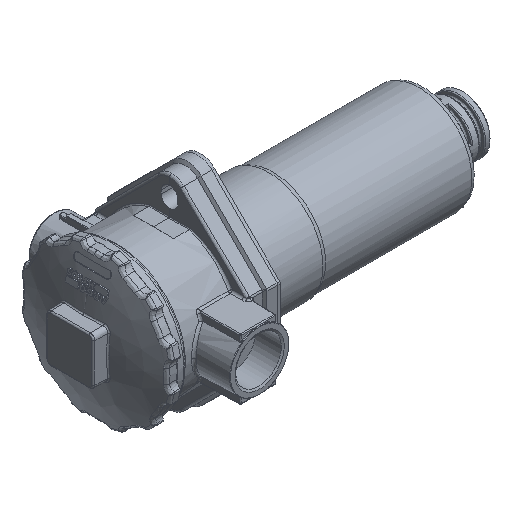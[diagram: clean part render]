
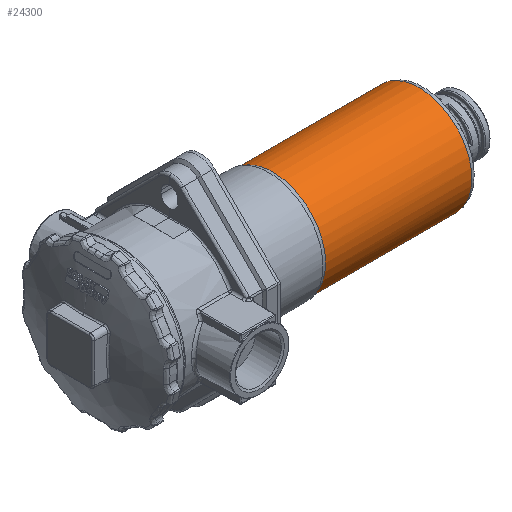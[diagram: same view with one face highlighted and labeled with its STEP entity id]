
A CAD part, isometric view. The second image highlights one B-rep face of the part: STEP entity #24300.
In plain terms, the highlighted free-form (B-spline) face has degree [2, 1] with [7, 2] control points.
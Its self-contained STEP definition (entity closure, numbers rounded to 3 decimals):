
#24190=CARTESIAN_POINT('V1533',(212.045,
   -35.5,0.));
#24191=VERTEX_POINT('V1533',#24190);
#24207=CARTESIAN_POINT('E2445',(212.045,
   -35.5,0.));
#24208=CARTESIAN_POINT('E2445',(212.045,
   -35.5,2.249));
#24209=CARTESIAN_POINT('E2445',(212.045,
   -35.071,6.75));
#24210=CARTESIAN_POINT('E2445',(212.045,
   -33.164,13.255));
#24211=CARTESIAN_POINT('E2445',(212.045,
   -30.061,19.284));
#24212=CARTESIAN_POINT('E2445',(212.045,
   -25.924,24.554));
#24213=CARTESIAN_POINT('E2445',(212.045,
   -20.944,28.91));
#24214=CARTESIAN_POINT('E2445',(212.045,
   -14.529,32.715));
#24215=CARTESIAN_POINT('E2445',(212.045,
   -6.519,35.309));
#24216=CARTESIAN_POINT('E2445',(212.045,
   1.904,35.747));
#24217=CARTESIAN_POINT('E2445',(212.045,
   9.283,34.474));
#24218=CARTESIAN_POINT('E2445',(212.045,
   15.454,32.184));
#24219=CARTESIAN_POINT('E2445',(212.045,
   21.1,28.8));
#24220=CARTESIAN_POINT('E2445',(212.045,
   26.084,24.388));
#24221=CARTESIAN_POINT('E2445',(212.045,
   30.203,19.064));
#24222=CARTESIAN_POINT('E2445',(212.045,
   33.27,12.99));
#24223=CARTESIAN_POINT('E2445',(212.045,
   35.13,6.444));
#24224=CARTESIAN_POINT('E2445',(212.045,
   35.72,-0.401));
#24225=CARTESIAN_POINT('E2445',(212.045,
   34.975,-7.299));
#24226=CARTESIAN_POINT('E2445',(212.045,
   32.879,-13.983));
#24227=CARTESIAN_POINT('E2445',(212.045,
   29.52,-20.128));
#24228=CARTESIAN_POINT('E2445',(212.045,
   24.92,-25.627));
#24229=CARTESIAN_POINT('E2445',(212.045,
   19.17,-30.191));
#24230=CARTESIAN_POINT('E2445',(212.045,
   12.694,-33.404));
#24231=CARTESIAN_POINT('E2445',(212.045,
   5.988,-35.202));
#24232=CARTESIAN_POINT('E2445',(212.045,
   -0.659,-35.701));
#24233=CARTESIAN_POINT('E2445',(212.045,
   -7.284,-34.957));
#24234=CARTESIAN_POINT('E2445',(212.045,
   -13.204,-33.132));
#24235=CARTESIAN_POINT('E2445',(212.045,
   -18.308,-30.565));
#24236=CARTESIAN_POINT('E2445',(212.045,
   -22.596,-27.547));
#24237=CARTESIAN_POINT('E2445',(212.045,
   -26.394,-23.932));
#24238=CARTESIAN_POINT('E2445',(212.045,
   -29.621,-19.799));
#24239=CARTESIAN_POINT('E2445',(212.045,
   -32.206,-15.237));
#24240=CARTESIAN_POINT('E2445',(212.045,
   -34.094,-10.345));
#24241=CARTESIAN_POINT('E2445',(212.045,
   -35.243,-5.229));
#24242=CARTESIAN_POINT('E2445',(212.045,
   -35.5,-1.743));
#24243=CARTESIAN_POINT('E2445',(212.045,
   -35.5,0.));
#24244=B_SPLINE_CURVE_WITH_KNOTS('E2445',3,(#24207,#24208,#24209,
   #24210,#24211,#24212,#24213,#24214,#24215,#24216,#24217,#24218,
   #24219,#24220,#24221,#24222,#24223,#24224,#24225,#24226,#24227,
   #24228,#24229,#24230,#24231,#24232,#24233,#24234,#24235,#24236,
   #24237,#24238,#24239,#24240,#24241,#24242,#24243),.UNSPECIFIED.,
   .T.,.U.,(4,1,1,1,1,1,1,1,1,1,1,1,1,1,1,1,1,1,1,1,1,1,1,1,1,1,1,1,
   1,1,1,1,1,1,4),(2.0,3.143,4.287,
   5.43,6.574,7.676,
   8.779,10.348,11.917,
   13.027,14.138,15.248,
   16.358,17.506,18.653,
   19.801,20.949,22.129,
   23.31,24.491,25.672,
   26.936,28.2,29.325,
   30.449,31.573,32.698,
   33.584,34.47,35.356,
   36.242,37.128,38.014,
   38.9,39.786),.UNSPECIFIED.);
#24245=EDGE_CURVE('E2445',#24191,#24191,#24244,.T.);
#24250=CARTESIAN_POINT('F938',(113.247,
   -35.5,0.));
#24251=CARTESIAN_POINT('F938',(113.247,
   -35.5,-61.488));
#24252=CARTESIAN_POINT('F938',(113.247,
   17.75,-30.744));
#24253=CARTESIAN_POINT('F938',(113.247,71.0,
   0.));
#24254=CARTESIAN_POINT('F938',(113.247,
   17.75,30.744));
#24255=CARTESIAN_POINT('F938',(113.247,
   -35.5,61.488));
#24256=CARTESIAN_POINT('F938',(113.247,
   -35.5,0.));
#24257=CARTESIAN_POINT('F938',(215.115,
   -35.5,0.));
#24258=CARTESIAN_POINT('F938',(215.115,
   -35.5,-61.488));
#24259=CARTESIAN_POINT('F938',(215.115,
   17.75,-30.744));
#24260=CARTESIAN_POINT('F938',(215.115,71.0,
   0.));
#24261=CARTESIAN_POINT('F938',(215.115,
   17.75,30.744));
#24262=CARTESIAN_POINT('F938',(215.115,
   -35.5,61.488));
#24263=CARTESIAN_POINT('F938',(215.115,
   -35.5,0.));
#24271=(BOUNDED_SURFACE()B_SPLINE_SURFACE(2,1,((#24250,#24257),(
   #24251,#24258),(#24252,#24259),(#24253,#24260),(#24254,
   #24261),(#24255,#24262),(#24256,#24263)),.CYLINDRICAL_SURF.,
   .T.,.F.,.U.)B_SPLINE_SURFACE_WITH_KNOTS((3,2,2,3),(2,2),(0.0,
   1.207,2.414,3.622),(0.0,1.0),
   .UNSPECIFIED.)GEOMETRIC_REPRESENTATION_ITEM()
   RATIONAL_B_SPLINE_SURFACE(((1.0,1.0),(0.5,
   0.5),(1.0,1.0),(0.5,
   0.5),(1.0,1.0),(0.5,
   0.5),(1.0,1.0)))REPRESENTATION_ITEM('F938')
   SURFACE());
#24272=ORIENTED_EDGE('F907',*,*,#24245,.T.);
#24273=CARTESIAN_POINT('V1560',(113.247,
   -35.5,0.));
#24274=VERTEX_POINT('V1560',#24273);
#24275=CARTESIAN_POINT('E2511',(212.045,
   -35.5,0.0));
#24276=CARTESIAN_POINT('E2511',(113.247,
   -35.5,0.0));
#24277=B_SPLINE_CURVE_WITH_KNOTS('E2511',1,(#24275,#24276),
   .POLYLINE_FORM.,.F.,.U.,(2,2),(0.03,1.0),
   .UNSPECIFIED.);
#24278=EDGE_CURVE('E2511',#24191,#24274,#24277,.T.);
#24279=ORIENTED_EDGE('E2511',*,*,#24278,.T.);
#24280=CARTESIAN_POINT('E2512',(113.247,
   -35.5,0.));
#24281=CARTESIAN_POINT('E2512',(113.247,
   -35.5,-61.488));
#24282=CARTESIAN_POINT('E2512',(113.247,
   17.75,-30.744));
#24283=CARTESIAN_POINT('E2512',(113.247,71.0,
   0.));
#24284=CARTESIAN_POINT('E2512',(113.247,
   17.75,30.744));
#24285=CARTESIAN_POINT('E2512',(113.247,
   -35.5,61.488));
#24286=CARTESIAN_POINT('E2512',(113.247,
   -35.5,0.));
#24294=(BOUNDED_CURVE()B_SPLINE_CURVE(2,(#24280,#24281,#24282,
   #24283,#24284,#24285,#24286),.CIRCULAR_ARC.,.T.,.U.)
   B_SPLINE_CURVE_WITH_KNOTS((3,2,2,3),(0.0,42.653,
   85.305,127.958),.UNSPECIFIED.)CURVE()
   GEOMETRIC_REPRESENTATION_ITEM()RATIONAL_B_SPLINE_CURVE((1.0,
   0.5,1.0,0.5,1.0,0.5,1.0)
   )REPRESENTATION_ITEM('E2512'));
#24295=EDGE_CURVE('E2512',#24274,#24274,#24294,.T.);
#24296=ORIENTED_EDGE('E2512',*,*,#24295,.T.);
#24297=ORIENTED_EDGE('E2511',*,*,#24278,.F.);
#24298=EDGE_LOOP('F938',(#24272,#24279,#24296,#24297));
#24299=FACE_OUTER_BOUND('F938',#24298,.T.);
#24300=ADVANCED_FACE('F938',(#24299),#24271,.T.);
